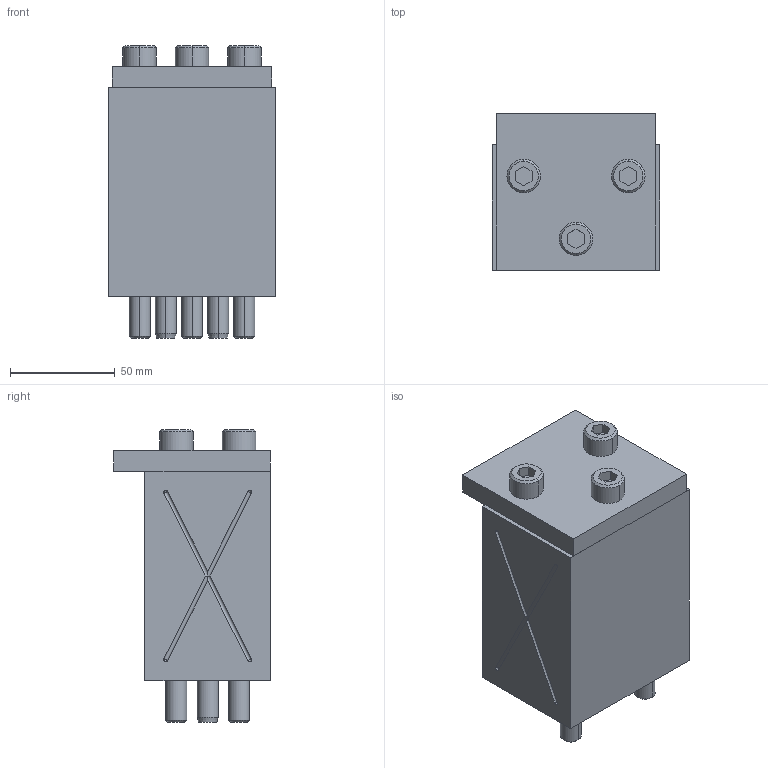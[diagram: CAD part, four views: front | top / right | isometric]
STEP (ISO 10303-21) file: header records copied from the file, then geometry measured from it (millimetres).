
FILE_DESCRIPTION((''),'2;1');
FILE_NAME('','2010-09-29T17:39:57+09:00',('misumi'),(''),'M/STEP i/f 1R2-14','CADmeister v5.1','');
FILE_SCHEMA(('AUTOMOTIVE_DESIGN'));
Length unit declared in the file: millimetre
Products named in the file (1): KEPNZ80-100-10
Bounding box: 80 x 75 x 140 mm (x, y, z)
Volume: 478953 mm3; surface area: 93498.9 mm2
Topology: 10 solids, 10 shells, 206 faces, 472 edges, 299 vertices
Faces by surface type: plane 86, cylinder 76, cone 32, revolution 12
Entity records: 8689 total; most frequent: DIRECTION 1066, CARTESIAN_POINT 1062, ORIENTED_EDGE 920, COLOUR_RGB 628, CURVE_STYLE 547, PRESENTATION_STYLE_ASSIGNMENT 537, OVER_RIDING_STYLED_ITEM 527, EDGE_CURVE 460
